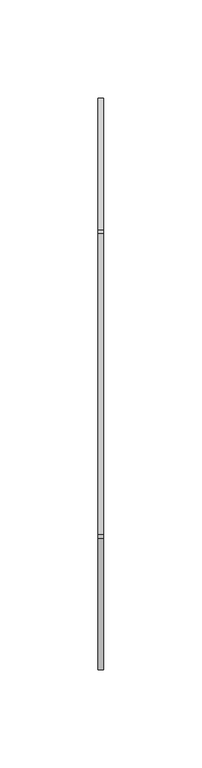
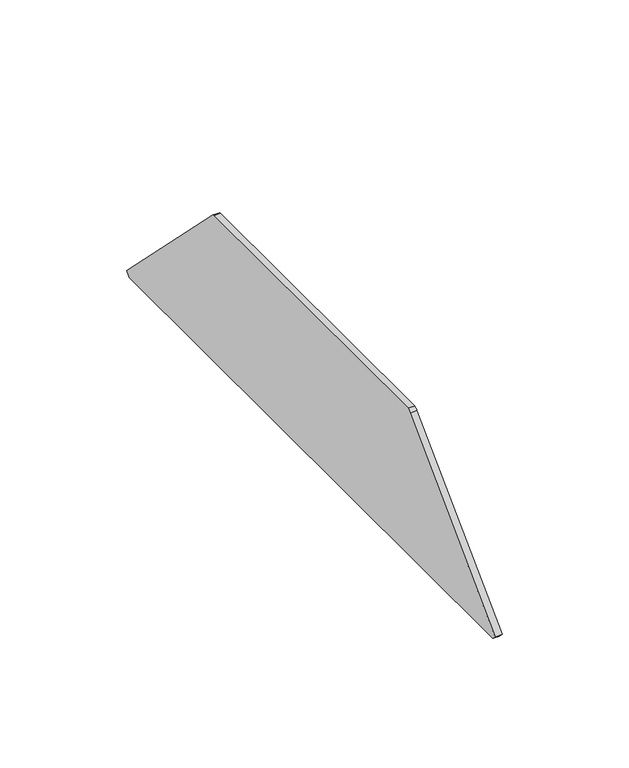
"""IFC4 building model written with IfcOpenShell, lengths in millimetres: cable carrier fitting geometry, Electrical_Installation_Hager_End-Piece : Electrical_Installation_Hager_End-Piece."""

from ifc_helpers import new_model, si_unit, point, frame, frame_2d, origin, place, context, project, spatial, polyline, circle_curve, trimmed, segment, composite_curve, outline, extrude, source, transform, mapped, element, save


def cable_carrier_fitting_c9a82c37(model_context):
    return source(origin(), model_context, "Body", "SweptSolid", [
        extrude(outline(composite_curve([segment(polyline([(145.7213203, -32.8786797), (143.6, -35.0), (-143.6, -35.0), (-145.7213203, -32.8786797), (-78.5142136, 34.3284271)]), True, "CONTINUOUS"), segment(trimmed(circle_curve(frame_2d((-76.0170755, 32.4593317)), 3.1191692), [point((-78.5142136, 34.3284271))], [point((-76.7124549, 35.5))], False, "CARTESIAN"), True, "CONTINUOUS"), segment(polyline([(-76.7124549, 35.5), (76.7124549, 35.5)]), True, "CONTINUOUS"), segment(trimmed(circle_curve(frame_2d((75.5004738, 31.6648514)), 4.0220969), [point((76.7124549, 35.5))], [point((78.5142136, 34.3284271))], False, "CARTESIAN"), True, "CONTINUOUS"), segment(polyline([(78.5142136, 34.3284271), (145.7213203, -32.8786797)]), True, "CONTINUOUS")], self_intersect=False)), frame((0.0, 0.0, 0.0), z_axis=(1.0, 0.0, 0.0), x_axis=(0.0, 1.0, 0.0)), (0.0, 0.0, 1.0), 3.0),
    ])


if __name__ == "__main__":
    model = new_model("IFC4")
    model_context = context("Model", 3, world=origin())
    ifc_project = project(units=[si_unit("LENGTHUNIT", "METRE", prefix="MILLI")], contexts=[model_context])
    site = spatial("IfcSite", under=ifc_project)
    building = spatial("IfcBuilding", under=site)
    placement = place(None, origin())
    cable_carrier_fitting_shape = cable_carrier_fitting_c9a82c37(model_context)
    element("IfcCableCarrierFitting", 1, ObjectType="Electrical_Installation_Hager_End-Piece : Electrical_Installation_Hager_End-Piece", at=placement, inside=building, context=model_context, shape_type="MappedRepresentation", body=[
        mapped(cable_carrier_fitting_shape, transform((0.0, 0.0, 0.0), x_axis=(1.0, 0.0, 0.0), y_axis=(0.0, 1.0, 0.0), z_axis=(0.0, 0.0, 1.0))),
    ])
    save(model, "model.ifc")
